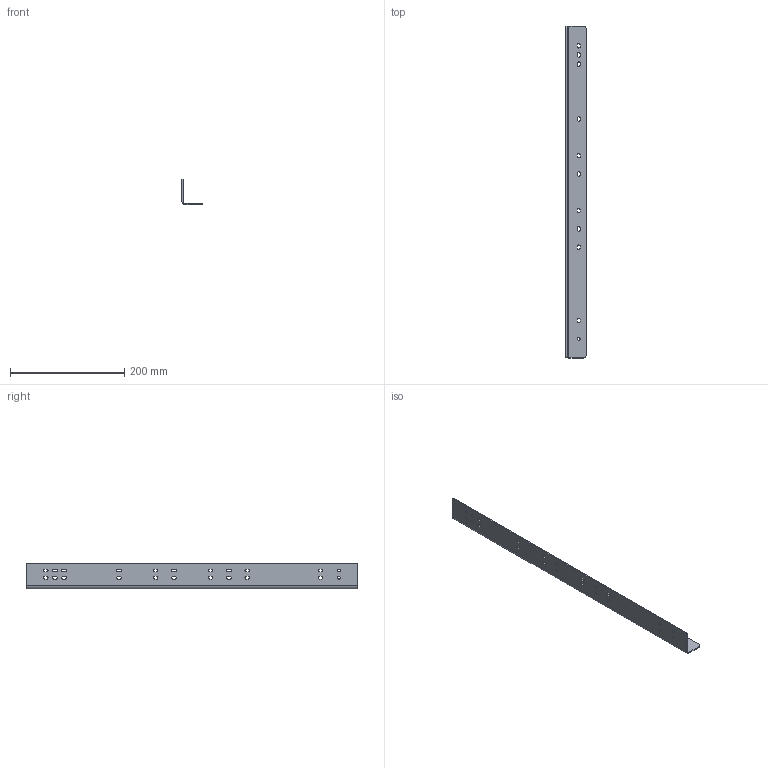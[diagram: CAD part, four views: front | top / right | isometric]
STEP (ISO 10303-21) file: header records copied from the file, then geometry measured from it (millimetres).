
FILE_DESCRIPTION(/* description */ (''),/* implementation_level */ '2;1');
FILE_NAME(/* name */ 'C:\Users\MelKon\Desktop\Winkel 1305319\WI_1305319-580_links.stp',/* time_stamp */ '2017-10-24T12:41:13+02:00',/* author */ ('MelKon'),/* organization */ (''),/* preprocessor_version */ 'ST-DEVELOPER v15.6',/* originating_system */ 'Autodesk Inventor 2015',/* authorisation */ '');
FILE_SCHEMA (('AUTOMOTIVE_DESIGN { 1 0 10303 214 3 1 1 }'));
Length unit declared in the file: millimetre
Products named in the file (1): WI_1305319-580_links
Bounding box: 35 x 580 x 44.7 mm (x, y, z)
Volume: 85917.1 mm3; surface area: 89924 mm2
Topology: 1 solids, 1 shells, 137 faces, 405 edges, 270 vertices
Faces by surface type: cylinder 69, plane 68
Full cylindrical faces by diameter (mm): 5 x3
Entity records: 4758 total; most frequent: DIRECTION 816, CARTESIAN_POINT 810, ORIENTED_EDGE 804, EDGE_CURVE 402, AXIS2_PLACEMENT_3D 276, VERTEX_POINT 270, LINE 264, VECTOR 264
